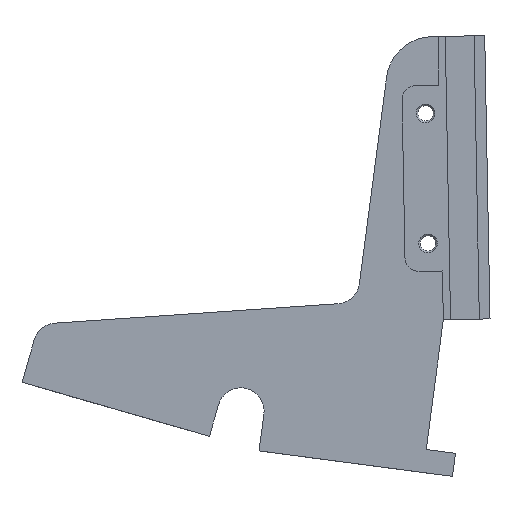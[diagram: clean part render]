
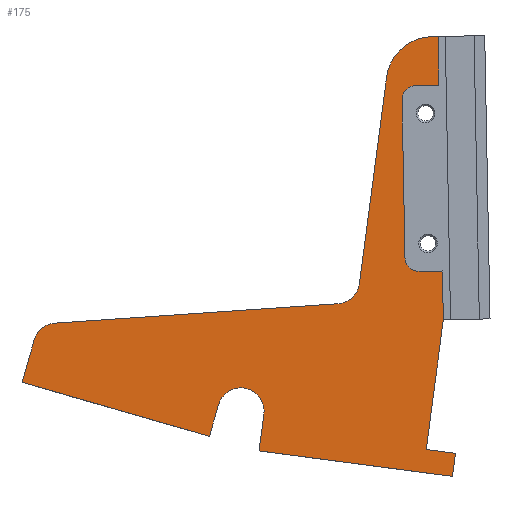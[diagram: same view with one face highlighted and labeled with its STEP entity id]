
A CAD part, left-side view. The second image highlights one B-rep face of the part: STEP entity #175.
In plain terms, the highlighted planar face has unit normal (-1, 0, 0).
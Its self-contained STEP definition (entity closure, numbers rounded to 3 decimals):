
#142=FACE_OUTER_BOUND('',#487,.T.);
#175=ADVANCED_FACE('',(#142),#233,.F.);
#233=PLANE('',#1104);
#261=LINE('',#1515,#343);
#281=LINE('',#1561,#363);
#283=LINE('',#1565,#365);
#284=LINE('',#1569,#366);
#285=LINE('',#1573,#367);
#286=LINE('',#1577,#368);
#287=LINE('',#1578,#369);
#288=LINE('',#1582,#370);
#289=LINE('',#1584,#371);
#290=LINE('',#1586,#372);
#291=LINE('',#1588,#373);
#292=LINE('',#1590,#374);
#293=LINE('',#1592,#375);
#294=LINE('',#1594,#376);
#295=LINE('',#1598,#377);
#296=LINE('',#1602,#378);
#343=VECTOR('',#1221,1.);
#363=VECTOR('',#1249,1.);
#365=VECTOR('',#1253,1.);
#366=VECTOR('',#1256,1.);
#367=VECTOR('',#1259,1.);
#368=VECTOR('',#1262,1.);
#369=VECTOR('',#1263,1.);
#370=VECTOR('',#1266,1.);
#371=VECTOR('',#1267,1.);
#372=VECTOR('',#1268,1.);
#373=VECTOR('',#1269,1.);
#374=VECTOR('',#1270,1.);
#375=VECTOR('',#1271,1.);
#376=VECTOR('',#1272,1.);
#377=VECTOR('',#1275,1.);
#378=VECTOR('',#1278,1.);
#487=EDGE_LOOP('',(#594,#595,#596,#597,#598,#599,#600,#601,#602,#603,#604,
#605,#606,#607,#608,#609,#610,#611,#612,#613,#614,#615));
#594=ORIENTED_EDGE('',*,*,#932,.F.);
#595=ORIENTED_EDGE('',*,*,#930,.T.);
#596=ORIENTED_EDGE('',*,*,#933,.T.);
#597=ORIENTED_EDGE('',*,*,#934,.T.);
#598=ORIENTED_EDGE('',*,*,#935,.T.);
#599=ORIENTED_EDGE('',*,*,#936,.T.);
#600=ORIENTED_EDGE('',*,*,#937,.T.);
#601=ORIENTED_EDGE('',*,*,#938,.T.);
#602=ORIENTED_EDGE('',*,*,#908,.T.);
#603=ORIENTED_EDGE('',*,*,#939,.T.);
#604=ORIENTED_EDGE('',*,*,#940,.T.);
#605=ORIENTED_EDGE('',*,*,#941,.T.);
#606=ORIENTED_EDGE('',*,*,#942,.T.);
#607=ORIENTED_EDGE('',*,*,#943,.T.);
#608=ORIENTED_EDGE('',*,*,#944,.T.);
#609=ORIENTED_EDGE('',*,*,#945,.T.);
#610=ORIENTED_EDGE('',*,*,#946,.F.);
#611=ORIENTED_EDGE('',*,*,#947,.F.);
#612=ORIENTED_EDGE('',*,*,#948,.T.);
#613=ORIENTED_EDGE('',*,*,#949,.F.);
#614=ORIENTED_EDGE('',*,*,#950,.T.);
#615=ORIENTED_EDGE('',*,*,#951,.F.);
#814=VERTEX_POINT('',#1514);
#815=VERTEX_POINT('',#1516);
#836=VERTEX_POINT('',#1560);
#837=VERTEX_POINT('',#1562);
#838=VERTEX_POINT('',#1566);
#839=VERTEX_POINT('',#1568);
#840=VERTEX_POINT('',#1570);
#841=VERTEX_POINT('',#1572);
#842=VERTEX_POINT('',#1574);
#843=VERTEX_POINT('',#1576);
#844=VERTEX_POINT('',#1579);
#845=VERTEX_POINT('',#1581);
#846=VERTEX_POINT('',#1583);
#847=VERTEX_POINT('',#1585);
#848=VERTEX_POINT('',#1587);
#849=VERTEX_POINT('',#1589);
#850=VERTEX_POINT('',#1591);
#851=VERTEX_POINT('',#1593);
#852=VERTEX_POINT('',#1595);
#853=VERTEX_POINT('',#1597);
#854=VERTEX_POINT('',#1599);
#855=VERTEX_POINT('',#1601);
#908=EDGE_CURVE('',#815,#814,#261,.T.);
#930=EDGE_CURVE('',#837,#836,#281,.T.);
#932=EDGE_CURVE('',#837,#838,#283,.T.);
#933=EDGE_CURVE('',#836,#839,#1042,.T.);
#934=EDGE_CURVE('',#839,#840,#284,.T.);
#935=EDGE_CURVE('',#840,#841,#1043,.T.);
#936=EDGE_CURVE('',#841,#842,#285,.T.);
#937=EDGE_CURVE('',#842,#843,#1044,.T.);
#938=EDGE_CURVE('',#843,#815,#286,.T.);
#939=EDGE_CURVE('',#814,#844,#287,.T.);
#940=EDGE_CURVE('',#844,#845,#1045,.T.);
#941=EDGE_CURVE('',#845,#846,#288,.T.);
#942=EDGE_CURVE('',#846,#847,#289,.T.);
#943=EDGE_CURVE('',#847,#848,#290,.T.);
#944=EDGE_CURVE('',#848,#849,#291,.T.);
#945=EDGE_CURVE('',#849,#850,#292,.T.);
#946=EDGE_CURVE('',#851,#850,#293,.T.);
#947=EDGE_CURVE('',#852,#851,#294,.T.);
#948=EDGE_CURVE('',#852,#853,#1046,.T.);
#949=EDGE_CURVE('',#854,#853,#295,.T.);
#950=EDGE_CURVE('',#854,#855,#1047,.T.);
#951=EDGE_CURVE('',#838,#855,#296,.T.);
#1042=CIRCLE('',#1098,10.);
#1043=CIRCLE('',#1099,5.);
#1044=CIRCLE('',#1100,5.);
#1045=CIRCLE('',#1101,5.);
#1046=CIRCLE('',#1102,3.);
#1047=CIRCLE('',#1103,3.);
#1098=AXIS2_PLACEMENT_3D('',#1567,#1254,#1255);
#1099=AXIS2_PLACEMENT_3D('',#1571,#1257,#1258);
#1100=AXIS2_PLACEMENT_3D('',#1575,#1260,#1261);
#1101=AXIS2_PLACEMENT_3D('',#1580,#1264,#1265);
#1102=AXIS2_PLACEMENT_3D('',#1596,#1273,#1274);
#1103=AXIS2_PLACEMENT_3D('',#1600,#1276,#1277);
#1104=AXIS2_PLACEMENT_3D('',#1603,#1279,#1280);
#1221=DIRECTION('',(0.,-0.961,-0.277));
#1249=DIRECTION('',(0.,1.,-0.019));
#1253=DIRECTION('',(0.,-0.019,-1.));
#1254=DIRECTION('',(-1.,0.,0.));
#1255=DIRECTION('',(0.,-0.151,-0.989));
#1256=DIRECTION('',(0.,0.131,-0.991));
#1257=DIRECTION('',(1.,0.,0.));
#1258=DIRECTION('',(0.,-0.151,-0.989));
#1259=DIRECTION('',(0.,0.998,-0.069));
#1260=DIRECTION('',(-1.,0.,0.));
#1261=DIRECTION('',(0.,-0.151,-0.989));
#1262=DIRECTION('',(0.,0.277,-0.961));
#1263=DIRECTION('',(0.,-0.277,0.961));
#1264=DIRECTION('',(1.,0.,0.));
#1265=DIRECTION('',(0.,-0.131,0.991));
#1266=DIRECTION('',(0.,0.131,-0.991));
#1267=DIRECTION('',(0.,-0.991,-0.131));
#1268=DIRECTION('',(0.,-0.131,0.991));
#1269=DIRECTION('',(0.,0.991,0.131));
#1270=DIRECTION('',(0.,-0.131,0.991));
#1271=DIRECTION('',(0.,-0.019,-1.));
#1272=DIRECTION('',(0.,-1.,0.019));
#1273=DIRECTION('',(1.,0.,0.));
#1274=DIRECTION('',(0.,-0.151,-0.989));
#1275=DIRECTION('',(0.,-0.019,-1.));
#1276=DIRECTION('',(1.,0.,0.));
#1277=DIRECTION('',(0.,-0.151,-0.989));
#1278=DIRECTION('',(0.,1.,-0.019));
#1279=DIRECTION('',(1.,0.,0.));
#1280=DIRECTION('',(0.,-0.151,-0.989));
#1514=CARTESIAN_POINT('',(763.,90.185,-393.874));
#1515=CARTESIAN_POINT('',(763.,130.544,-382.247));
#1516=CARTESIAN_POINT('',(763.,130.544,-382.247));
#1560=CARTESIAN_POINT('',(763.,42.306,-307.81));
#1561=CARTESIAN_POINT('',(763.,30.914,-307.596));
#1562=CARTESIAN_POINT('',(763.,40.966,-307.784));
#1565=CARTESIAN_POINT('',(763.,40.966,-307.784));
#1566=CARTESIAN_POINT('',(763.,40.77,-318.283));
#1567=CARTESIAN_POINT('',(763.,42.119,-317.808));
#1568=CARTESIAN_POINT('',(763.,52.034,-316.503));
#1569=CARTESIAN_POINT('',(763.,50.91,-307.97));
#1570=CARTESIAN_POINT('',(763.,57.891,-360.994));
#1571=CARTESIAN_POINT('',(763.,62.848,-360.342));
#1572=CARTESIAN_POINT('',(763.,62.506,-365.33));
#1573=CARTESIAN_POINT('',(763.,58.425,-365.05));
#1574=CARTESIAN_POINT('',(763.,123.452,-369.515));
#1575=CARTESIAN_POINT('',(763.,123.11,-374.504));
#1576=CARTESIAN_POINT('',(763.,127.914,-373.119));
#1577=CARTESIAN_POINT('',(763.,126.945,-369.755));
#1578=CARTESIAN_POINT('',(763.,90.185,-393.874));
#1579=CARTESIAN_POINT('',(763.,88.219,-387.049));
#1580=CARTESIAN_POINT('',(763.,83.414,-388.433));
#1581=CARTESIAN_POINT('',(763.,78.457,-389.085));
#1582=CARTESIAN_POINT('',(763.,78.457,-389.085));
#1583=CARTESIAN_POINT('',(763.,79.502,-397.02));
#1584=CARTESIAN_POINT('',(763.,79.502,-397.02));
#1585=CARTESIAN_POINT('',(763.,37.861,-402.502));
#1586=CARTESIAN_POINT('',(763.,37.861,-402.502));
#1587=CARTESIAN_POINT('',(763.,37.208,-397.544));
#1588=CARTESIAN_POINT('',(763.,37.208,-397.544));
#1589=CARTESIAN_POINT('',(763.,43.504,-396.716));
#1590=CARTESIAN_POINT('',(763.,43.504,-396.716));
#1591=CARTESIAN_POINT('',(763.,39.825,-368.774));
#1592=CARTESIAN_POINT('',(763.,40.022,-358.276));
#1593=CARTESIAN_POINT('',(763.,40.022,-358.276));
#1594=CARTESIAN_POINT('',(763.,48.02,-358.425));
#1595=CARTESIAN_POINT('',(763.,45.021,-358.369));
#1596=CARTESIAN_POINT('',(763.,45.077,-355.37));
#1597=CARTESIAN_POINT('',(763.,48.076,-355.426));
#1598=CARTESIAN_POINT('',(763.,48.768,-318.432));
#1599=CARTESIAN_POINT('',(763.,48.712,-321.432));
#1600=CARTESIAN_POINT('',(763.,45.713,-321.376));
#1601=CARTESIAN_POINT('',(763.,45.769,-318.376));
#1602=CARTESIAN_POINT('',(763.,40.77,-318.283));
#1603=CARTESIAN_POINT('',(763.,83.414,-388.433));
